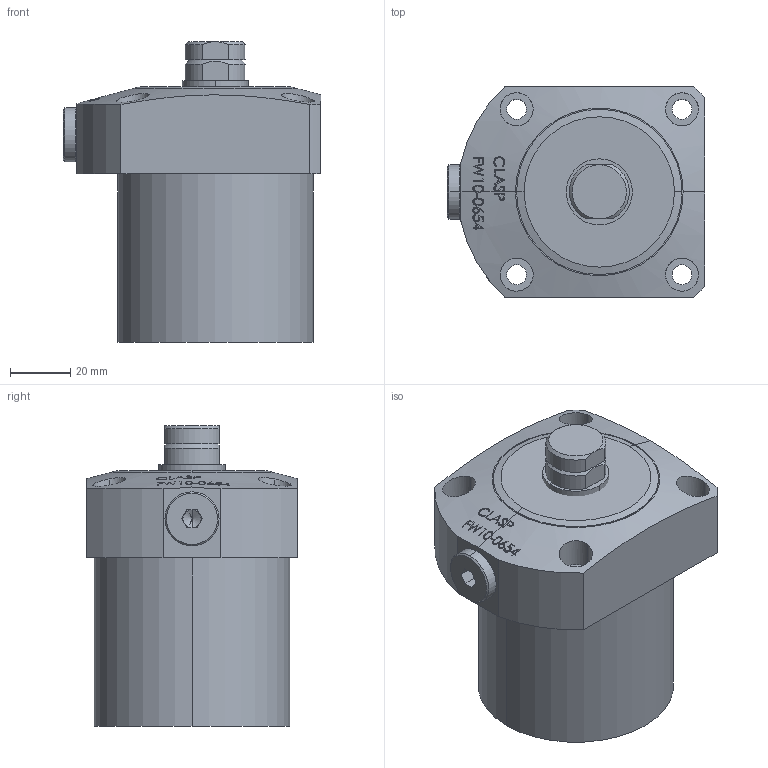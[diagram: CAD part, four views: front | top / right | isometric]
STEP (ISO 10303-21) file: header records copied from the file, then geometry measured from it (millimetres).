
FILE_DESCRIPTION (( 'STEP AP203' ), '1' );
FILE_NAME ('FW10-0654 Work support.STEP', '2022-07-09T17:12:59', ( '' ), ( '' ), 'SwSTEP 2.0', 'SolidWorks 2017', '' );
FILE_SCHEMA (( 'CONFIG_CONTROL_DESIGN' ));
Length unit declared in the file: millimetre
Products named in the file (4): FW10-0654; FW10-0654-part-2; FW10-0654-part-3; FW10-0654 Work support
Assembly tree (3 placements, depth 2):
  FW10-0654 Work support
    FW10-0654
    FW10-0654-part-2
    FW10-0654-part-3
Bounding box: 85.5 x 70 x 100 mm (x, y, z)
Volume: 350127.7 mm3; surface area: 38631.9 mm2
Topology: 3 solids, 3 shells, 269 faces, 674 edges, 440 vertices
Faces by surface type: plane 136, bspline 67, cylinder 40, cone 26
Entity records: 12430 total; most frequent: CARTESIAN_POINT 6173, ORIENTED_EDGE 1340, DIRECTION 941, EDGE_CURVE 670, VERTEX_POINT 440, LINE 331, VECTOR 331, EDGE_LOOP 310
